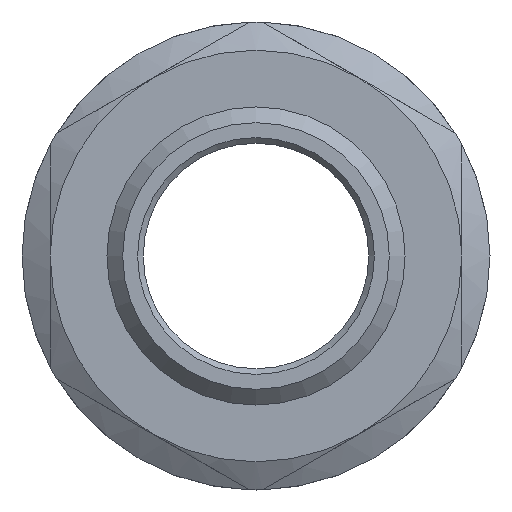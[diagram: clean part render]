
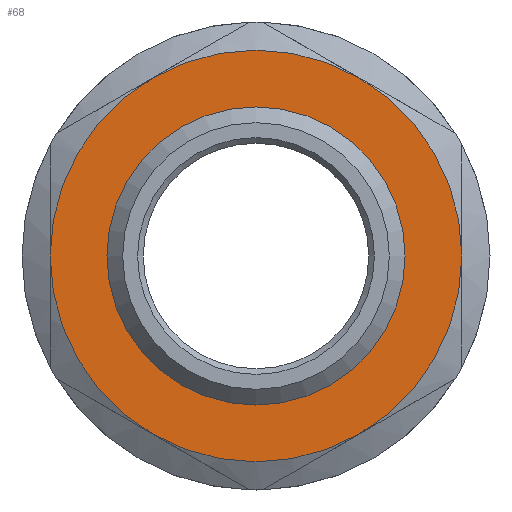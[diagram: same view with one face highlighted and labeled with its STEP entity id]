
A CAD part, front view. The second image highlights one B-rep face of the part: STEP entity #68.
In plain terms, the highlighted planar face has unit normal (0, -1, 0).
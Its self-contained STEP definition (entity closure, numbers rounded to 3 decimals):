
#68=ADVANCED_FACE('',(#256,#258),#260,.F.);
#256=FACE_BOUND('',#257,.T.);
#257=EDGE_LOOP('',(#412,#413,#414,#415,#416));
#258=FACE_BOUND('',#259,.T.);
#259=EDGE_LOOP('',(#417));
#260=PLANE('',#261);
#261=AXIS2_PLACEMENT_3D('',#262,#263,#264);
#262=CARTESIAN_POINT('',(0.,-15.,0.));
#263=DIRECTION('',(0.,1.,0.));
#264=DIRECTION('',(-1.,0.,0.));
#412=ORIENTED_EDGE('',*,*,#477,.T.);
#413=ORIENTED_EDGE('',*,*,#470,.T.);
#414=ORIENTED_EDGE('',*,*,#467,.T.);
#415=ORIENTED_EDGE('',*,*,#485,.T.);
#416=ORIENTED_EDGE('',*,*,#481,.T.);
#417=ORIENTED_EDGE('',*,*,#463,.F.);
#463=EDGE_CURVE('',#557,#557,#558,.T.);
#467=EDGE_CURVE('',#561,#563,#565,.F.);
#470=EDGE_CURVE('',#568,#561,#569,.F.);
#477=EDGE_CURVE('',#575,#568,#577,.F.);
#481=EDGE_CURVE('',#580,#575,#582,.F.);
#485=EDGE_CURVE('',#563,#580,#586,.F.);
#557=VERTEX_POINT('',#751);
#558=CIRCLE('',#752,13.221);
#561=VERTEX_POINT('',#761);
#563=VERTEX_POINT('',#786);
#565=CIRCLE('',#819,18.25);
#568=VERTEX_POINT('',#894);
#569=CIRCLE('',#895,18.25);
#575=VERTEX_POINT('',#1099);
#577=CIRCLE('',#1124,18.25);
#580=VERTEX_POINT('',#1199);
#582=CIRCLE('',#1224,18.25);
#586=CIRCLE('',#1330,18.25);
#751=CARTESIAN_POINT('',(13.221,-15.,0.));
#752=AXIS2_PLACEMENT_3D('',#753,#754,#755);
#753=CARTESIAN_POINT('',(0.,-15.,0.));
#754=DIRECTION('',(0.,-1.,0.));
#755=DIRECTION('',(1.,0.,0.));
#761=CARTESIAN_POINT('',(-9.125,-15.,15.805));
#786=CARTESIAN_POINT('',(-18.25,-15.,0.));
#819=AXIS2_PLACEMENT_3D('',#820,#821,#822);
#820=CARTESIAN_POINT('',(0.,-15.,0.));
#821=DIRECTION('',(0.,1.,0.));
#822=DIRECTION('',(-1.,0.,0.));
#894=CARTESIAN_POINT('',(18.25,-15.,0.));
#895=AXIS2_PLACEMENT_3D('',#896,#897,#898);
#896=CARTESIAN_POINT('',(0.,-15.,0.));
#897=DIRECTION('',(0.,1.,0.));
#898=DIRECTION('',(-0.5,0.,0.866));
#1099=CARTESIAN_POINT('',(9.125,-15.,-15.805));
#1124=AXIS2_PLACEMENT_3D('',#1125,#1126,#1127);
#1125=CARTESIAN_POINT('',(0.,-15.,0.));
#1126=DIRECTION('',(0.,1.,0.));
#1127=DIRECTION('',(1.,0.,0.));
#1199=CARTESIAN_POINT('',(-9.125,-15.,-15.805));
#1224=AXIS2_PLACEMENT_3D('',#1225,#1226,#1227);
#1225=CARTESIAN_POINT('',(0.,-15.,0.));
#1226=DIRECTION('',(0.,1.,0.));
#1227=DIRECTION('',(0.5,0.,-0.866));
#1330=AXIS2_PLACEMENT_3D('',#1331,#1332,#1333);
#1331=CARTESIAN_POINT('',(0.,-15.,0.));
#1332=DIRECTION('',(0.,1.,0.));
#1333=DIRECTION('',(-0.5,0.,-0.866));
